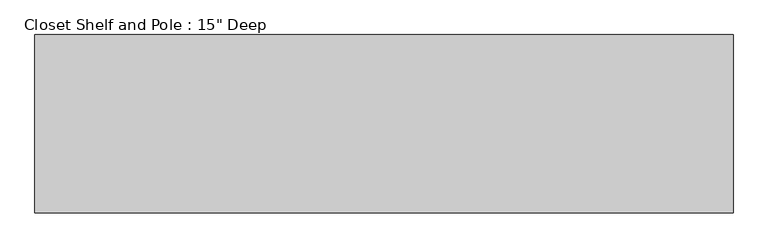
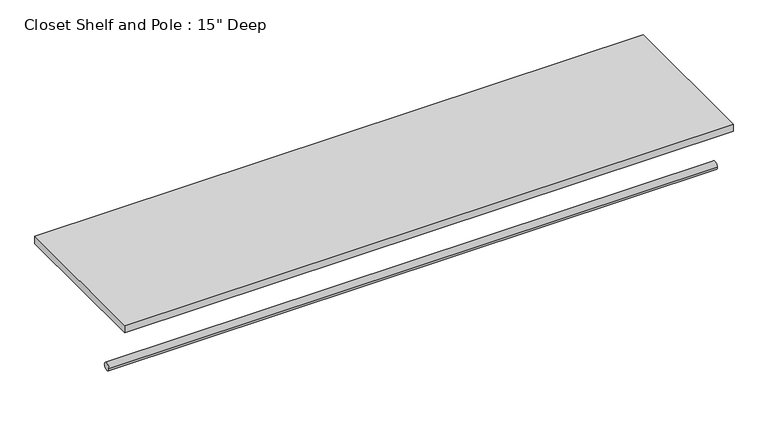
"""IFC4 building model written with IfcOpenShell, lengths in millimetres: proxy geometry."""

from ifc_helpers import new_model, si_unit, point, frame, frame_2d, origin, place, context, project, spatial, polyline, circle_curve, trimmed, segment, composite_curve, outline, extrude, source, transform, mapped, element, save


def proxy_0dac56ba(model_context):
    return source(origin(), model_context, "Body", "SweptSolid", [
        extrude(outline(polyline([(1490.4, 0.0), (1490.4, -381.0), (0.0, -381.0), (0.0, 0.0), (1490.4, 0.0)])), frame((0.0, 0.0, 1809.75), z_axis=(0.0, 0.0, 1.0), x_axis=(1.0, 0.0, 0.0)), (0.0, 0.0, 1.0), 19.05),
        extrude(outline(composite_curve([segment(trimmed(circle_curve(frame_2d((-304.8, 1676.4)), 9.525), [point((-314.325, 1676.4))], [point((-295.275, 1676.4))], False, "CARTESIAN"), True, "CONTINUOUS"), segment(trimmed(circle_curve(frame_2d((-304.8, 1676.4)), 9.525), [point((-295.275, 1676.4))], [point((-314.325, 1676.4))], False, "CARTESIAN"), True, "CONTINUOUS")], self_intersect=False)), frame((0.0, 0.0, 0.0), z_axis=(1.0, 0.0, 0.0), x_axis=(0.0, 1.0, 0.0)), (0.0, 0.0, 1.0), 1490.4),
    ])


if __name__ == "__main__":
    model = new_model("IFC4")
    model_context = context("Model", 3, world=origin())
    ifc_project = project(units=[si_unit("LENGTHUNIT", "METRE", prefix="MILLI")], contexts=[model_context])
    site = spatial("IfcSite", under=ifc_project)
    building = spatial("IfcBuilding", under=site)
    placement = place(None, origin())
    proxy_shape = proxy_0dac56ba(model_context)
    element("IfcBuildingElementProxy", 1, Name="Closet Shelf and Pole : 15\" Deep", ObjectType="Closet Shelf and Pole : 15\" Deep", at=placement, inside=building, context=model_context, shape_type="MappedRepresentation", body=[
        mapped(proxy_shape, transform((0.0, 0.0, 0.0), x_axis=(1.0, 0.0, 0.0), y_axis=(0.0, 1.0, 0.0), z_axis=(0.0, 0.0, 1.0))),
    ])
    save(model, "model.ifc")
